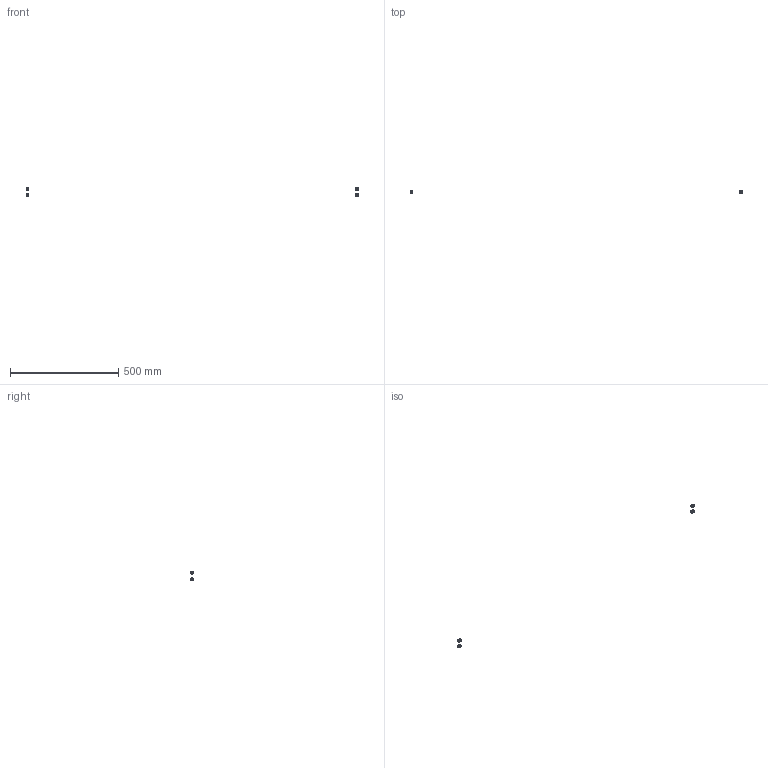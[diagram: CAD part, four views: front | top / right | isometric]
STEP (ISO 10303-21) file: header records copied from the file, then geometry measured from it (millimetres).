
FILE_DESCRIPTION(/* description */ (''),/* implementation_level */ '2;1');
FILE_NAME(/* name */ 'Y-DRIV~1',/* time_stamp */ '2014-02-14T19:38:12+01:00',/* author */ (''),/* organization */ (''),/* preprocessor_version */ 'ST-DEVELOPER v14',/* originating_system */ '',/* authorisation */ '');
FILE_SCHEMA (('AUTOMOTIVE_DESIGN'));
Length unit declared in the file: millimetre
Products named in the file (2): Document; ball bearing 5x14x5mm
Assembly tree (4 placements, depth 2):
  Document
    ball bearing 5x14x5mm  x4
Bounding box: 1534 x 14 x 46 mm (x, y, z)
Surface area: 4937.3 mm2 (no closed solid volume)
Topology: 0 solids, 208 shells, 208 faces, 736 edges, 728 vertices
Faces by surface type: bspline 160, plane 48
Entity records: 13468 total; most frequent: CARTESIAN_POINT 8177, B_SPLINE_CURVE_WITH_KNOTS 515, ORIENTED_EDGE 455, PCURVE 455, DEFINITIONAL_REPRESENTATION 455, SURFACE_CURVE 455, EDGE_CURVE 455, VERTEX_POINT 455
